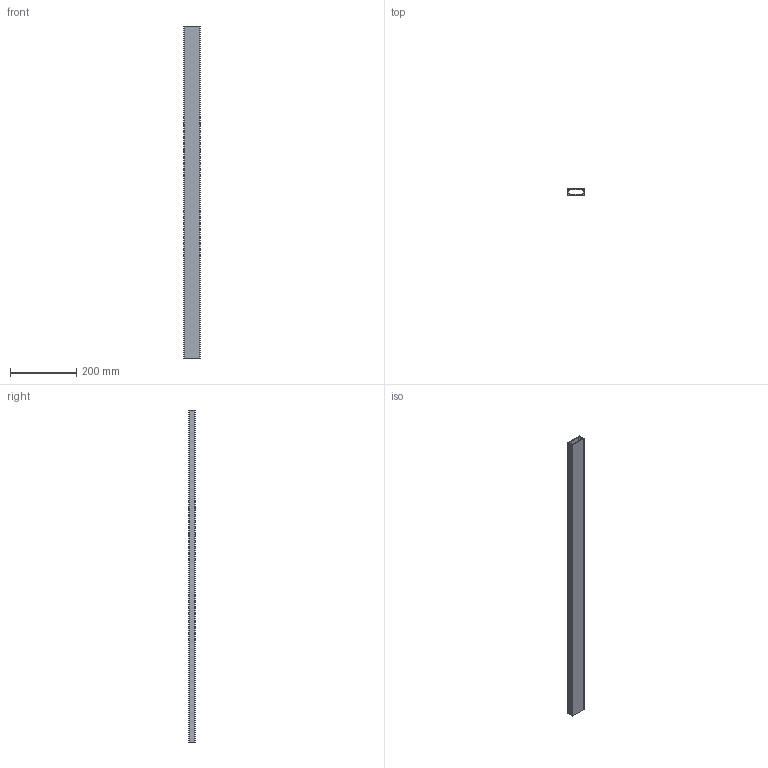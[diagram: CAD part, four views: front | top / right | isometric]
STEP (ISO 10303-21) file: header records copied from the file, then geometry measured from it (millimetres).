
FILE_DESCRIPTION (( 'STEP AP214' ), '1' );
FILE_NAME ('119.050.020.STEP', '2020-01-22T13:11:11', ( '' ), ( '' ), 'SwSTEP 2.0', 'SolidWorks 2018', '' );
FILE_SCHEMA (( 'AUTOMOTIVE_DESIGN' ));
Length unit declared in the file: millimetre
Products named in the file (1): 119.050.020
Bounding box: 50 x 20 x 1000 mm (x, y, z)
Volume: 390867.3 mm3; surface area: 249914.5 mm2
Topology: 1 solids, 1 shells, 18 faces, 48 edges, 32 vertices
Faces by surface type: plane 10, cylinder 8
Entity records: 606 total; most frequent: DIRECTION 102, CARTESIAN_POINT 99, ORIENTED_EDGE 96, EDGE_CURVE 48, AXIS2_PLACEMENT_3D 35, VECTOR 32, VERTEX_POINT 32, LINE 32
